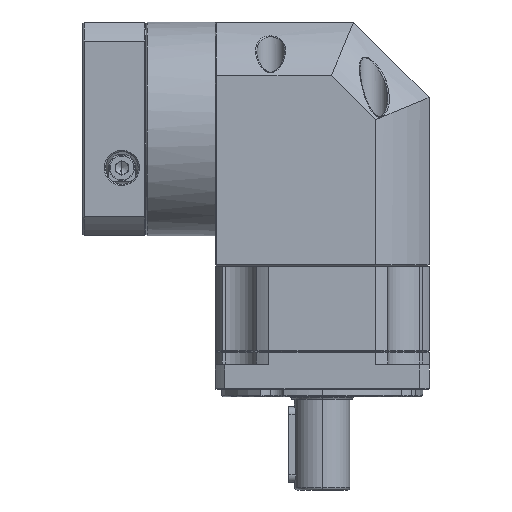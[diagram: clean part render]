
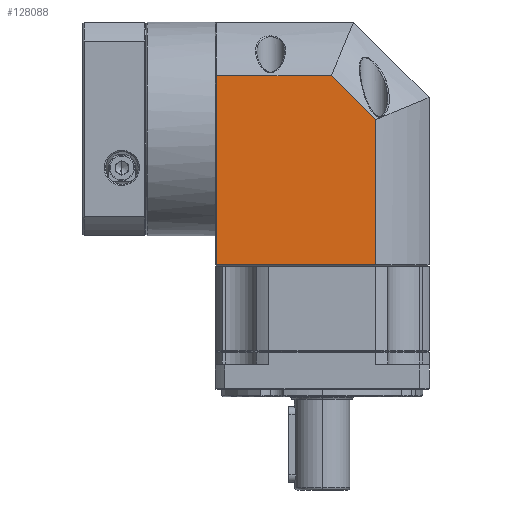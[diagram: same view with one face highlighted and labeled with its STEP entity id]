
A CAD part, left-side view. The second image highlights one B-rep face of the part: STEP entity #128088.
In plain terms, the highlighted planar face has unit normal (-1, 0, 0).
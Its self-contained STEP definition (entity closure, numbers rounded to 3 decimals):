
#1567 = CARTESIAN_POINT ( 'NONE',  ( -65.225, 47.215, 134. ) ) ;
#5158 = EDGE_CURVE ( 'NONE', #49950, #82420, #170329, .T. ) ;
#6032 = CARTESIAN_POINT ( 'NONE',  ( -65.225, 46.715, 209.213 ) ) ;
#7197 = CARTESIAN_POINT ( 'NONE',  ( -65.225, -16.498, 191.683 ) ) ;
#13793 = VECTOR ( 'NONE', #68244, 1000. ) ;
#23084 = DIRECTION ( 'NONE',  ( 0., -0.707, -0.707 ) ) ;
#23679 = FACE_OUTER_BOUND ( 'NONE', #105485, .T. ) ;
#24989 = VERTEX_POINT ( 'NONE', #51447 ) ;
#26611 = VECTOR ( 'NONE', #96797, 1000. ) ;
#30803 = VERTEX_POINT ( 'NONE', #52171 ) ;
#45185 = CARTESIAN_POINT ( 'NONE',  ( -65.225, 47.215, 230.5 ) ) ;
#47627 = DIRECTION ( 'NONE',  ( 0., -1., 0. ) ) ;
#49950 = VERTEX_POINT ( 'NONE', #58797 ) ;
#51030 = VECTOR ( 'NONE', #47627, 1000. ) ;
#51447 = CARTESIAN_POINT ( 'NONE',  ( -65.225, 1.033, 209.213 ) ) ;
#52171 = CARTESIAN_POINT ( 'NONE',  ( -65.225, -16.498, 134. ) ) ;
#54668 = CARTESIAN_POINT ( 'NONE',  ( -65.225, -16.498, 234. ) ) ;
#58797 = CARTESIAN_POINT ( 'NONE',  ( -65.225, 46.715, 134. ) ) ;
#58846 = DIRECTION ( 'NONE',  ( 0., 1., 0. ) ) ;
#60700 = CARTESIAN_POINT ( 'NONE',  ( -65.225, 47.215, 209.213 ) ) ;
#63437 = EDGE_CURVE ( 'NONE', #24989, #90390, #137531, .T. ) ;
#68244 = DIRECTION ( 'NONE',  ( 0., 0., -1. ) ) ;
#71023 = LINE ( 'NONE', #1567, #26611 ) ;
#71613 = ORIENTED_EDGE ( 'NONE', *, *, #63437, .F. ) ;
#72174 = ORIENTED_EDGE ( 'NONE', *, *, #5158, .F. ) ;
#82420 = VERTEX_POINT ( 'NONE', #6032 ) ;
#82847 = LINE ( 'NONE', #60700, #51030 ) ;
#85759 = LINE ( 'NONE', #54668, #13793 ) ;
#90390 = VERTEX_POINT ( 'NONE', #7197 ) ;
#90739 = CARTESIAN_POINT ( 'NONE',  ( -65.225, 46.715, 230.5 ) ) ;
#96797 = DIRECTION ( 'NONE',  ( 0., -1., 0. ) ) ;
#102838 = ORIENTED_EDGE ( 'NONE', *, *, #172065, .T. ) ;
#105485 = EDGE_LOOP ( 'NONE', ( #102838, #129616, #71613, #127168, #72174 ) ) ;
#108883 = EDGE_CURVE ( 'NONE', #82420, #24989, #82847, .T. ) ;
#117667 = CARTESIAN_POINT ( 'NONE',  ( -65.225, 1.033, 209.213 ) ) ;
#127168 = ORIENTED_EDGE ( 'NONE', *, *, #108883, .F. ) ;
#128088 = ADVANCED_FACE ( 'NONE', ( #23679 ), #152833, .F. ) ;
#129168 = DIRECTION ( 'NONE',  ( 0., 0., 1. ) ) ;
#129616 = ORIENTED_EDGE ( 'NONE', *, *, #155748, .F. ) ;
#131990 = AXIS2_PLACEMENT_3D ( 'NONE', #45185, #139803, #58846 ) ;
#134335 = VECTOR ( 'NONE', #129168, 1000. ) ;
#137531 = LINE ( 'NONE', #117667, #173498 ) ;
#139803 = DIRECTION ( 'NONE',  ( 1., 0., 0. ) ) ;
#152833 = PLANE ( 'NONE',  #131990 ) ;
#155748 = EDGE_CURVE ( 'NONE', #90390, #30803, #85759, .T. ) ;
#170329 = LINE ( 'NONE', #90739, #134335 ) ;
#172065 = EDGE_CURVE ( 'NONE', #49950, #30803, #71023, .T. ) ;
#173498 = VECTOR ( 'NONE', #23084, 1000. ) ;
